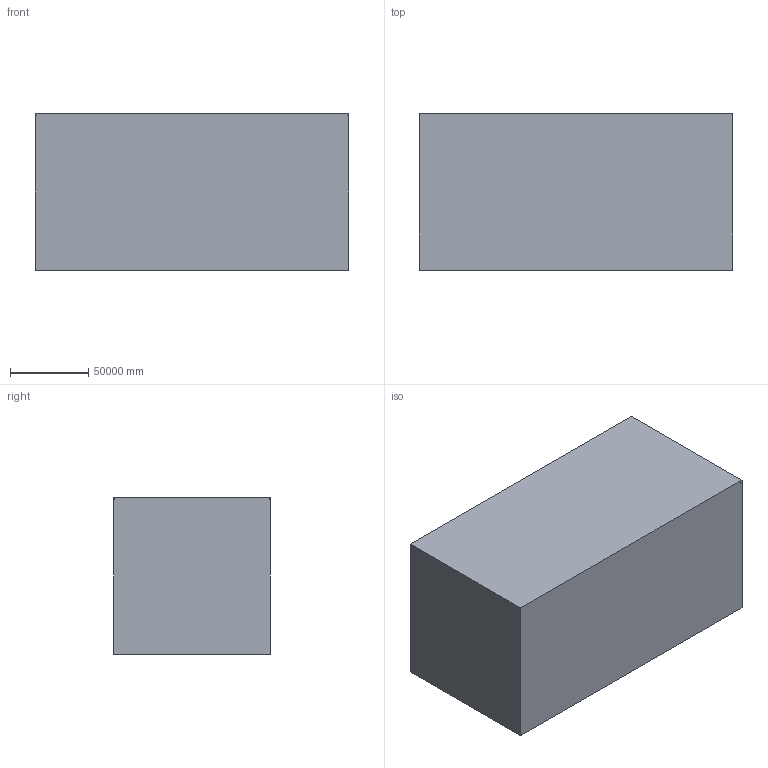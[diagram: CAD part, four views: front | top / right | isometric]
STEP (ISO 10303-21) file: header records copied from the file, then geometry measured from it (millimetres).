
FILE_DESCRIPTION(('Open CASCADE Model'),'2;1');
FILE_NAME('Open CASCADE Shape Model','2010-10-22T11:03:31',('Author'),( 'Open CASCADE'),'Open CASCADE STEP processor 6.3','Open CASCADE 6.3' ,'Unknown');
FILE_SCHEMA(('AUTOMOTIVE_DESIGN_CC2 { 1 2 10303 214 -1 1 5 4 }'));
Length unit declared in the file: millimetre
Products named in the file (7): Open CASCADE STEP translator 6.3 1; Open CASCADE STEP translator 6.3 1.1; Open CASCADE STEP translator 6.3 1.2; Open CASCADE STEP translator 6.3 1.3; Open CASCADE STEP translator 6.3 1.4; Open CASCADE STEP translator 6.3 1.5; Open CASCADE STEP translator 6.3 1.6
Assembly tree (6 placements, depth 2):
  Open CASCADE STEP translator 6.3 1
    Open CASCADE STEP translator 6.3 1.1
    Open CASCADE STEP translator 6.3 1.2
    Open CASCADE STEP translator 6.3 1.3
    Open CASCADE STEP translator 6.3 1.4
    Open CASCADE STEP translator 6.3 1.5
    Open CASCADE STEP translator 6.3 1.6
Bounding box: 200000 x 100000 x 100000 mm (x, y, z)
Volume: 1956448562396954.5 mm3; surface area: 232423003559.6 mm2
Topology: 6 solids, 6 shells, 41 faces, 84 edges, 56 vertices
Faces by surface type: plane 40, cylinder 1
Entity records: 2266 total; most frequent: CARTESIAN_POINT 368, DIRECTION 348, LINE 248, VECTOR 248, ORIENTED_EDGE 168, PCURVE 168, DEFINITIONAL_REPRESENTATION 168, EDGE_CURVE 84
